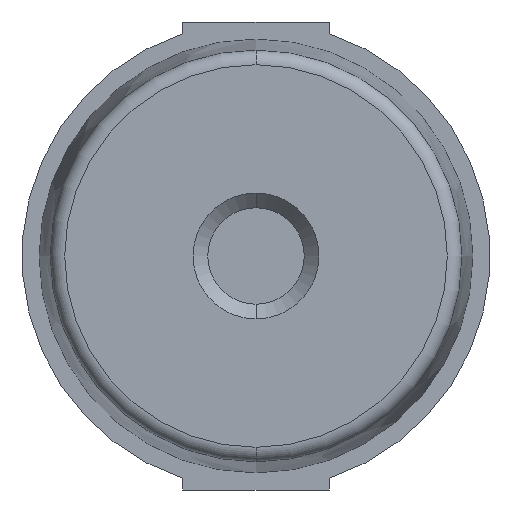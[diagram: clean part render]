
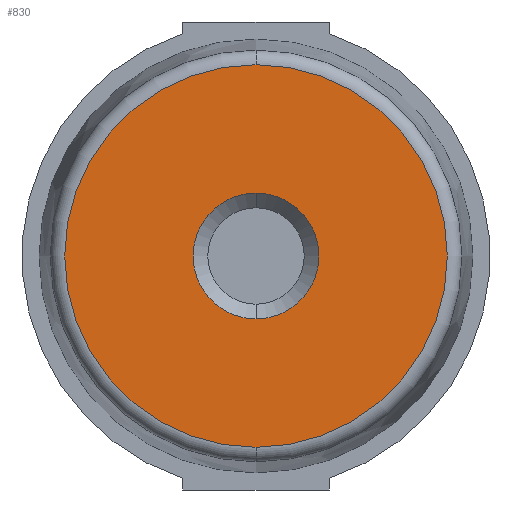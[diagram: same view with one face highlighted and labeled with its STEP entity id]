
A CAD part, front view. The second image highlights one B-rep face of the part: STEP entity #830.
In plain terms, the highlighted planar face has unit normal (0, -1, 0).
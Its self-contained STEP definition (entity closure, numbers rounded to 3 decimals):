
#1 = CIRCLE ( 'NONE', #105, 4.3 ) ;
#15 = CIRCLE ( 'NONE', #128, 13.08 ) ;
#46 = VERTEX_POINT ( 'NONE', #590 ) ;
#48 = CARTESIAN_POINT ( 'NONE',  ( 0., 0., 13.08 ) ) ;
#57 = CARTESIAN_POINT ( 'NONE',  ( 0., 0., 0. ) ) ;
#66 = AXIS2_PLACEMENT_3D ( 'NONE', #814, #345, #152 ) ;
#91 = EDGE_CURVE ( 'NONE', #337, #243, #137, .T. ) ;
#102 = CARTESIAN_POINT ( 'NONE',  ( 0., 0., 0. ) ) ;
#105 = AXIS2_PLACEMENT_3D ( 'NONE', #102, #170, #571 ) ;
#128 = AXIS2_PLACEMENT_3D ( 'NONE', #207, #470, #737 ) ;
#137 = CIRCLE ( 'NONE', #743, 4.3 ) ;
#152 = DIRECTION ( 'NONE',  ( 0., 0., -1. ) ) ;
#170 = DIRECTION ( 'NONE',  ( 0., 1., 0. ) ) ;
#182 = ORIENTED_EDGE ( 'NONE', *, *, #342, .T. ) ;
#207 = CARTESIAN_POINT ( 'NONE',  ( 0., 0., 0. ) ) ;
#210 = EDGE_CURVE ( 'NONE', #800, #46, #15, .T. ) ;
#226 = CARTESIAN_POINT ( 'NONE',  ( 0., 0., 0. ) ) ;
#243 = VERTEX_POINT ( 'NONE', #641 ) ;
#244 = PLANE ( 'NONE',  #538 ) ;
#319 = DIRECTION ( 'NONE',  ( 0., 1., 0. ) ) ;
#326 = ORIENTED_EDGE ( 'NONE', *, *, #544, .T. ) ;
#337 = VERTEX_POINT ( 'NONE', #367 ) ;
#342 = EDGE_CURVE ( 'NONE', #243, #337, #1, .T. ) ;
#345 = DIRECTION ( 'NONE',  ( 0., -1., 0. ) ) ;
#367 = CARTESIAN_POINT ( 'NONE',  ( 0., 0., 4.3 ) ) ;
#419 = DIRECTION ( 'NONE',  ( 0., 0., -1. ) ) ;
#442 = ORIENTED_EDGE ( 'NONE', *, *, #91, .T. ) ;
#470 = DIRECTION ( 'NONE',  ( 0., -1., 0. ) ) ;
#485 = DIRECTION ( 'NONE',  ( 0., -1., 0. ) ) ;
#538 = AXIS2_PLACEMENT_3D ( 'NONE', #226, #485, #419 ) ;
#544 = EDGE_CURVE ( 'NONE', #46, #800, #810, .T. ) ;
#571 = DIRECTION ( 'NONE',  ( 0., 0., -1. ) ) ;
#580 = EDGE_LOOP ( 'NONE', ( #326, #788 ) ) ;
#590 = CARTESIAN_POINT ( 'NONE',  ( 0., 0., -13.08 ) ) ;
#641 = CARTESIAN_POINT ( 'NONE',  ( 0., 0., -4.3 ) ) ;
#686 = FACE_BOUND ( 'NONE', #835, .T. ) ;
#737 = DIRECTION ( 'NONE',  ( 0., 0., -1. ) ) ;
#743 = AXIS2_PLACEMENT_3D ( 'NONE', #57, #319, #853 ) ;
#788 = ORIENTED_EDGE ( 'NONE', *, *, #210, .T. ) ;
#800 = VERTEX_POINT ( 'NONE', #48 ) ;
#810 = CIRCLE ( 'NONE', #66, 13.08 ) ;
#814 = CARTESIAN_POINT ( 'NONE',  ( 0., 0., 0. ) ) ;
#830 = ADVANCED_FACE ( 'NONE', ( #686, #836 ), #244, .T. ) ;
#835 = EDGE_LOOP ( 'NONE', ( #182, #442 ) ) ;
#836 = FACE_OUTER_BOUND ( 'NONE', #580, .T. ) ;
#853 = DIRECTION ( 'NONE',  ( 0., 0., -1. ) ) ;
